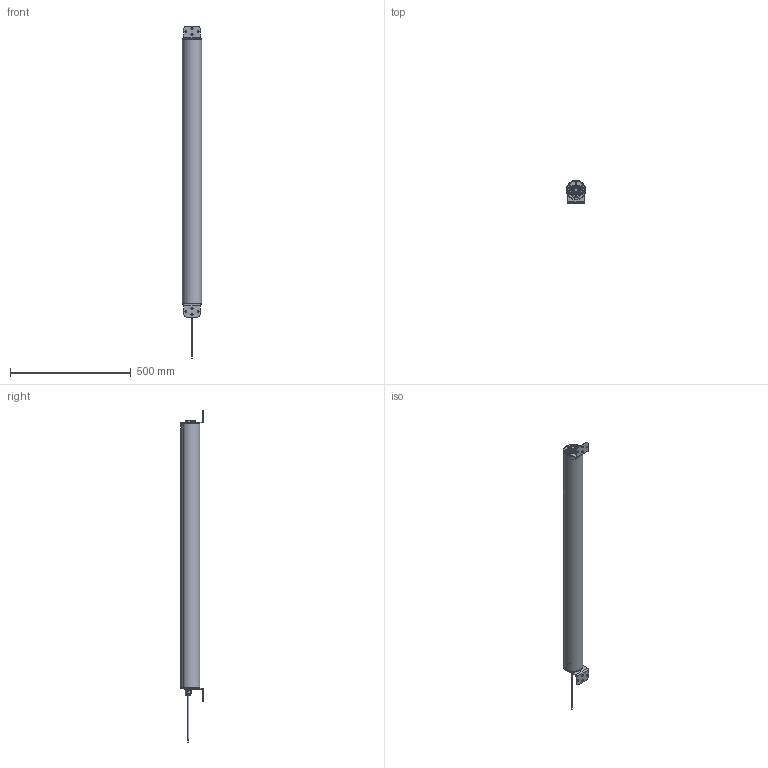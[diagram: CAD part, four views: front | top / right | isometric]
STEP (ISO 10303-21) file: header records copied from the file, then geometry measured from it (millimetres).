
FILE_DESCRIPTION (( 'STEP AP203' ), '1' );
FILE_NAME ('LB9x901.STEP', '2024-08-28T13:53:19', ( '' ), ( '' ), 'SwSTEP 2.0', 'SolidWorks 2021', '' );
FILE_SCHEMA (( 'CONFIG_CONTROL_DESIGN' ));
Length unit declared in the file: millimetre
Products named in the file (7): 000715_1_2; 006266-C; IP69K enclosure adjust_1000; LB9x901; Cable M12 femelle_1_2; IP69K adjust model_1000; 000039_M5x10_1_2
Assembly tree (10 placements, depth 2):
  LB9x901
    IP69K adjust model_1000
    IP69K enclosure adjust_1000
    000039_M5x10_1_2  x4
    000715_1_2
    Cable M12 femelle_1_2
    006266-C  x2
Bounding box: 80 x 95 x 1375.7 mm (x, y, z)
Volume: 2921285.6 mm3; surface area: 852538.2 mm2
Topology: 12 solids, 12 shells, 1217 faces, 3219 edges, 2093 vertices
Faces by surface type: plane 665, cylinder 366, bspline 116, cone 64, sphere 4, torus 2
Entity records: 40343 total; most frequent: CARTESIAN_POINT 12109, ORIENTED_EDGE 5894, DIRECTION 5508, EDGE_CURVE 2947, VERTEX_POINT 1928, AXIS2_PLACEMENT_3D 1857, LINE 1794, VECTOR 1794
